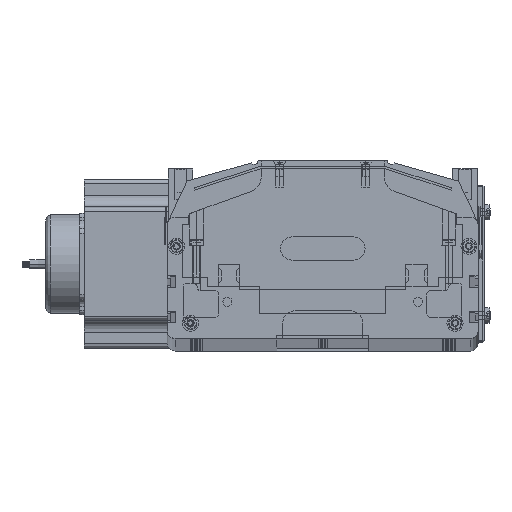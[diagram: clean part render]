
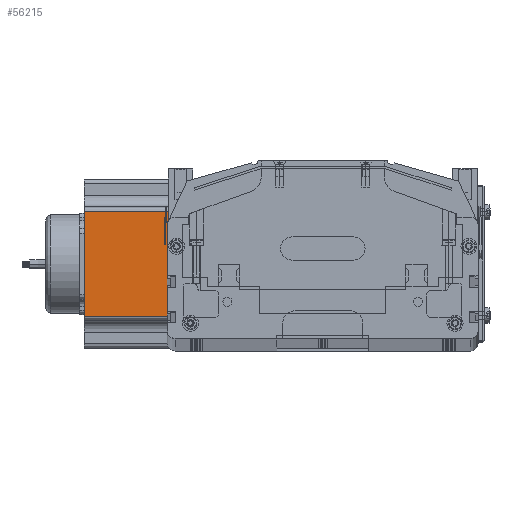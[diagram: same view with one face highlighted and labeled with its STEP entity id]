
A CAD part, top view. The second image highlights one B-rep face of the part: STEP entity #56215.
In plain terms, the highlighted planar face has unit normal (0, 0, 1) as drawn and (0, -1, 0) by its records, which use the part's own axes.
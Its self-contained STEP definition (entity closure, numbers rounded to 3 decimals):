
#32026 = DIRECTION ( 'NONE',  ( 0., 1., 0. ) ) ;
#32027 = CARTESIAN_POINT ( 'NONE',  ( 0., 0., 160.5 ) ) ;
#32147 = DIRECTION ( 'NONE',  ( 0., 0., 1. ) ) ;
#32166 = CARTESIAN_POINT ( 'NONE',  ( 21.048, 0., 160.5 ) ) ;
#32199 = FACE_OUTER_BOUND ( 'NONE', #56400, .T. ) ;
#32329 = PLANE ( 'NONE',  #32340 ) ;
#32340 = AXIS2_PLACEMENT_3D ( 'NONE', #32027, #32026, #32147 ) ;
#32669 = CARTESIAN_POINT ( 'NONE',  ( 88.952, 0., 0. ) ) ;
#33186 = DIRECTION ( 'NONE',  ( 0., 0., 1. ) ) ;
#33188 = VECTOR ( 'NONE', #33186, 1000. ) ;
#33189 = CARTESIAN_POINT ( 'NONE',  ( 88.952, 0., 160.5 ) ) ;
#33191 = LINE ( 'NONE', #33189, #33188 ) ;
#33195 = CARTESIAN_POINT ( 'NONE',  ( 88.952, 0., 160.5 ) ) ;
#33229 = LINE ( 'NONE', #33280, #33614 ) ;
#33280 = CARTESIAN_POINT ( 'NONE',  ( 21.048, 0., 160.5 ) ) ;
#33283 = DIRECTION ( 'NONE',  ( 1., 0., 0. ) ) ;
#33285 = VECTOR ( 'NONE', #33283, 1000. ) ;
#33485 = CARTESIAN_POINT ( 'NONE',  ( 21.048, 0., 0. ) ) ;
#33497 = CARTESIAN_POINT ( 'NONE',  ( 0., 0., 0. ) ) ;
#33498 = LINE ( 'NONE', #33497, #33285 ) ;
#33613 = DIRECTION ( 'NONE',  ( 0., 0., -1. ) ) ;
#33614 = VECTOR ( 'NONE', #33613, 1000. ) ;
#33648 = DIRECTION ( 'NONE',  ( 1., 0., 0. ) ) ;
#33649 = VECTOR ( 'NONE', #33648, 1000. ) ;
#33651 = CARTESIAN_POINT ( 'NONE',  ( 0., 0., 160.5 ) ) ;
#33656 = LINE ( 'NONE', #33651, #33649 ) ;
#56213 = ORIENTED_EDGE ( 'NONE', *, *, #56531, .T. ) ;
#56215 = ADVANCED_FACE ( 'NONE', ( #32199 ), #32329, .F. ) ;
#56256 = VERTEX_POINT ( 'NONE', #32166 ) ;
#56324 = ORIENTED_EDGE ( 'NONE', *, *, #56534, .T. ) ;
#56400 = EDGE_LOOP ( 'NONE', ( #56324, #56213, #56403, #56562 ) ) ;
#56403 = ORIENTED_EDGE ( 'NONE', *, *, #56564, .F. ) ;
#56408 = VERTEX_POINT ( 'NONE', #32669 ) ;
#56531 = EDGE_CURVE ( 'NONE', #56408, #56535, #33191, .T. ) ;
#56534 = EDGE_CURVE ( 'NONE', #56556, #56408, #33498, .T. ) ;
#56535 = VERTEX_POINT ( 'NONE', #33195 ) ;
#56556 = VERTEX_POINT ( 'NONE', #33485 ) ;
#56562 = ORIENTED_EDGE ( 'NONE', *, *, #56566, .T. ) ;
#56564 = EDGE_CURVE ( 'NONE', #56256, #56535, #33656, .T. ) ;
#56566 = EDGE_CURVE ( 'NONE', #56256, #56556, #33229, .T. ) ;
